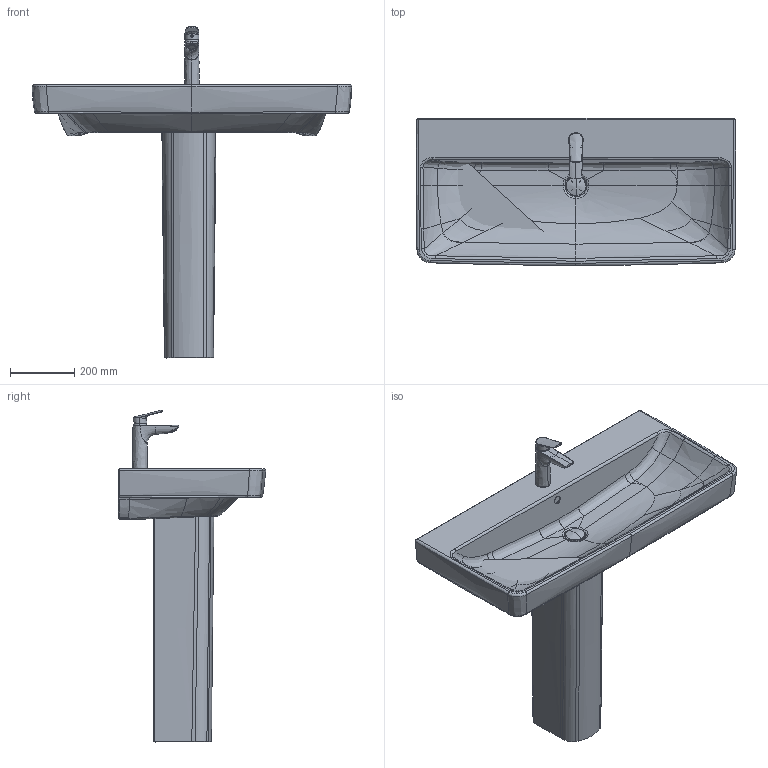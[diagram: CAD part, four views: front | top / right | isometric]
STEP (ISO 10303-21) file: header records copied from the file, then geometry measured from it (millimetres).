
FILE_DESCRIPTION(/* description */ (''),/* implementation_level */ '2;1');
FILE_NAME(/* name */ '237510_085844',/* time_stamp */ '2024-02-20T14:08:03+01:00',/* author */ (''),/* organization */ (''),/* preprocessor_version */ 'ST-DEVELOPER v15',/* originating_system */ '',/* authorisation */ '');
FILE_SCHEMA (('AUTOMOTIVE_DESIGN'));
Length unit declared in the file: millimetre
Products named in the file (1): Document
Bounding box: 999.14 x 460 x 1037.23 mm (x, y, z)
Volume: 27610243.3 mm3; surface area: 2371548.9 mm2
Topology: 6 solids, 9 shells, 761 faces, 1822 edges, 1062 vertices
Faces by surface type: bspline 669, plane 92
Entity records: 111542 total; most frequent: CARTESIAN_POINT 100519, ORIENTED_EDGE 3580, EDGE_CURVE 1799, B_SPLINE_CURVE_WITH_KNOTS 1470, VERTEX_POINT 1062, EDGE_LOOP 793, ADVANCED_FACE 760, FACE_OUTER_BOUND 760
